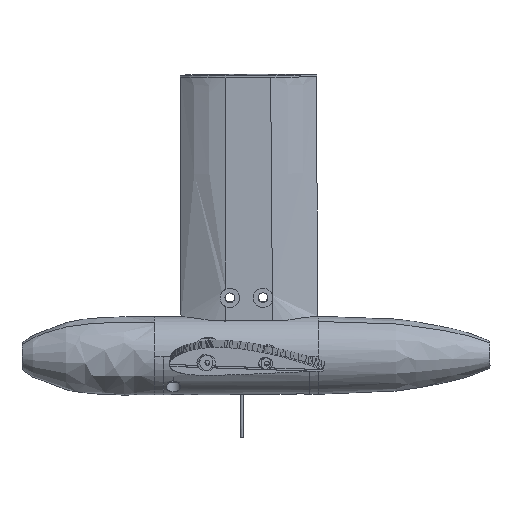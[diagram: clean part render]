
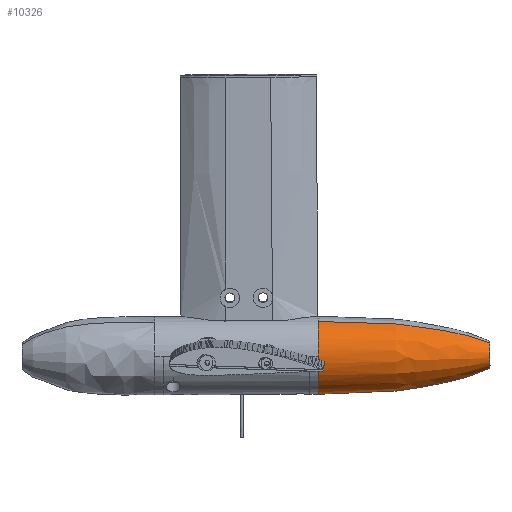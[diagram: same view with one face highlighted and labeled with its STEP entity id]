
A CAD part, front view. The second image highlights one B-rep face of the part: STEP entity #10326.
In plain terms, the highlighted face is a revolution surface.
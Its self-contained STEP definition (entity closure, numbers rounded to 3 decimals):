
#9456=CARTESIAN_POINT('Vertex',(-42.,20.,0.)) ;
#9459=CARTESIAN_POINT('Axis2P3D Location',(-42.,0.,0.)) ;
#9463=CARTESIAN_POINT('Vertex',(-42.,9.589,17.552)) ;
#10205=CARTESIAN_POINT('Vertex',(-42.,-9.589,-17.552)) ;
#10208=CARTESIAN_POINT('Axis2P3D Location',(-42.,0.,0.)) ;
#10227=CARTESIAN_POINT('Control Point',(-42.,0.,20.)) ;
#10228=CARTESIAN_POINT('Control Point',(-44.663,0.,20.038)) ;
#10229=CARTESIAN_POINT('Control Point',(-47.325,0.,20.058)) ;
#10230=CARTESIAN_POINT('Control Point',(-49.987,0.,20.058)) ;
#10231=CARTESIAN_POINT('Control Point',(-55.801,0.,20.018)) ;
#10232=CARTESIAN_POINT('Control Point',(-61.613,0.,19.875)) ;
#10233=CARTESIAN_POINT('Control Point',(-64.763,0.,19.763)) ;
#10234=CARTESIAN_POINT('Control Point',(-72.68,0.,19.368)) ;
#10235=CARTESIAN_POINT('Control Point',(-80.583,0.,18.662)) ;
#10236=CARTESIAN_POINT('Control Point',(-85.331,0.,18.109)) ;
#10237=CARTESIAN_POINT('Control Point',(-93.513,0.,16.961)) ;
#10238=CARTESIAN_POINT('Control Point',(-101.632,0.,15.474)) ;
#10239=CARTESIAN_POINT('Control Point',(-105.052,0.,14.785)) ;
#10240=CARTESIAN_POINT('Control Point',(-111.736,0.,13.305)) ;
#10241=CARTESIAN_POINT('Control Point',(-118.345,0.,11.476)) ;
#10242=CARTESIAN_POINT('Control Point',(-121.547,0.,10.475)) ;
#10243=CARTESIAN_POINT('Control Point',(-125.152,0.,9.163)) ;
#10244=CARTESIAN_POINT('Control Point',(-128.661,0.,7.64)) ;
#10245=CARTESIAN_POINT('Control Point',(-129.109,0.,7.441)) ;
#10246=CARTESIAN_POINT('Control Point',(-129.555,0.,7.239)) ;
#10247=CARTESIAN_POINT('Control Point',(-130.,0.,7.033)) ;
#10248=CARTESIAN_POINT('Axis1P Location',(-12.5,0.,0.)) ;
#10253=CARTESIAN_POINT('Control Point',(-130.,3.372,6.172)) ;
#10254=CARTESIAN_POINT('Control Point',(-130.,4.285,5.673)) ;
#10255=CARTESIAN_POINT('Control Point',(-130.,5.107,5.005)) ;
#10256=CARTESIAN_POINT('Control Point',(-130.,5.794,4.19)) ;
#10257=CARTESIAN_POINT('Control Point',(-130.,6.834,2.346)) ;
#10258=CARTESIAN_POINT('Control Point',(-130.,7.146,0.251)) ;
#10259=CARTESIAN_POINT('Control Point',(-130.,7.104,-0.814)) ;
#10260=CARTESIAN_POINT('Control Point',(-130.,6.628,-2.877)) ;
#10261=CARTESIAN_POINT('Control Point',(-130.,5.445,-4.634)) ;
#10262=CARTESIAN_POINT('Control Point',(-130.,4.696,-5.392)) ;
#10263=CARTESIAN_POINT('Control Point',(-130.,2.74,-6.742)) ;
#10264=CARTESIAN_POINT('Control Point',(-130.,0.387,-7.205)) ;
#10265=CARTESIAN_POINT('Control Point',(-130.,-0.955,-7.152)) ;
#10266=CARTESIAN_POINT('Control Point',(-130.,-2.235,-6.793)) ;
#10267=CARTESIAN_POINT('Control Point',(-130.,-3.372,-6.172)) ;
#10268=CARTESIAN_POINT('Vertex',(-130.,3.372,6.172)) ;
#10270=CARTESIAN_POINT('Vertex',(-130.,-3.372,-6.172)) ;
#10274=CARTESIAN_POINT('Control Point',(-42.,9.589,17.552)) ;
#10275=CARTESIAN_POINT('Control Point',(-44.663,9.607,17.585)) ;
#10276=CARTESIAN_POINT('Control Point',(-47.325,9.616,17.602)) ;
#10277=CARTESIAN_POINT('Control Point',(-49.987,9.616,17.603)) ;
#10278=CARTESIAN_POINT('Control Point',(-55.801,9.597,17.568)) ;
#10279=CARTESIAN_POINT('Control Point',(-61.613,9.529,17.442)) ;
#10280=CARTESIAN_POINT('Control Point',(-64.763,9.475,17.344)) ;
#10281=CARTESIAN_POINT('Control Point',(-72.68,9.285,16.997)) ;
#10282=CARTESIAN_POINT('Control Point',(-80.583,8.947,16.377)) ;
#10283=CARTESIAN_POINT('Control Point',(-85.331,8.682,15.892)) ;
#10284=CARTESIAN_POINT('Control Point',(-93.513,8.131,14.884)) ;
#10285=CARTESIAN_POINT('Control Point',(-101.632,7.419,13.58)) ;
#10286=CARTESIAN_POINT('Control Point',(-105.052,7.088,12.975)) ;
#10287=CARTESIAN_POINT('Control Point',(-111.736,6.379,11.677)) ;
#10288=CARTESIAN_POINT('Control Point',(-118.345,5.502,10.071)) ;
#10289=CARTESIAN_POINT('Control Point',(-121.547,5.022,9.193)) ;
#10290=CARTESIAN_POINT('Control Point',(-125.152,4.393,8.042)) ;
#10291=CARTESIAN_POINT('Control Point',(-128.661,3.663,6.705)) ;
#10292=CARTESIAN_POINT('Control Point',(-129.109,3.567,6.53)) ;
#10293=CARTESIAN_POINT('Control Point',(-129.555,3.47,6.353)) ;
#10294=CARTESIAN_POINT('Control Point',(-130.,3.372,6.172)) ;
#10297=CARTESIAN_POINT('Control Point',(-42.,-9.589,-17.552)) ;
#10298=CARTESIAN_POINT('Control Point',(-44.663,-9.607,-17.585)) ;
#10299=CARTESIAN_POINT('Control Point',(-47.325,-9.616,-17.602)) ;
#10300=CARTESIAN_POINT('Control Point',(-49.987,-9.616,-17.603)) ;
#10301=CARTESIAN_POINT('Control Point',(-55.801,-9.597,-17.568)) ;
#10302=CARTESIAN_POINT('Control Point',(-61.613,-9.529,-17.442)) ;
#10303=CARTESIAN_POINT('Control Point',(-64.763,-9.475,-17.344)) ;
#10304=CARTESIAN_POINT('Control Point',(-72.68,-9.285,-16.997)) ;
#10305=CARTESIAN_POINT('Control Point',(-80.583,-8.947,-16.377)) ;
#10306=CARTESIAN_POINT('Control Point',(-85.331,-8.682,-15.892)) ;
#10307=CARTESIAN_POINT('Control Point',(-93.513,-8.131,-14.884)) ;
#10308=CARTESIAN_POINT('Control Point',(-101.632,-7.419,-13.58)) ;
#10309=CARTESIAN_POINT('Control Point',(-105.052,-7.088,-12.975)) ;
#10310=CARTESIAN_POINT('Control Point',(-111.736,-6.379,-11.677)) ;
#10311=CARTESIAN_POINT('Control Point',(-118.345,-5.502,-10.071)) ;
#10312=CARTESIAN_POINT('Control Point',(-121.547,-5.022,-9.193)) ;
#10313=CARTESIAN_POINT('Control Point',(-125.152,-4.393,-8.042)) ;
#10314=CARTESIAN_POINT('Control Point',(-128.661,-3.663,-6.705)) ;
#10315=CARTESIAN_POINT('Control Point',(-129.109,-3.567,-6.53)) ;
#10316=CARTESIAN_POINT('Control Point',(-129.555,-3.47,-6.353)) ;
#10317=CARTESIAN_POINT('Control Point',(-130.,-3.372,-6.172)) ;
#9460=DIRECTION('Axis2P3D Direction',(1.,0.,0.)) ;
#10209=DIRECTION('Axis2P3D Direction',(1.,0.,0.)) ;
#10249=DIRECTION('Axis1P Direction',(-1.,0.,0.)) ;
#9461=AXIS2_PLACEMENT_3D('Circle Axis2P3D',#9459,#9460,$) ;
#10210=AXIS2_PLACEMENT_3D('Circle Axis2P3D',#10208,#10209,$) ;
#10320=ORIENTED_EDGE('',*,*,#10272,.F.) ;
#10321=ORIENTED_EDGE('',*,*,#10295,.F.) ;
#10322=ORIENTED_EDGE('',*,*,#9465,.F.) ;
#10323=ORIENTED_EDGE('',*,*,#10212,.F.) ;
#10324=ORIENTED_EDGE('',*,*,#10318,.T.) ;
#10326=ADVANCED_FACE('PartBody',(#10325),#10251,.T.) ;
#10250=AXIS1_PLACEMENT('Revolution Surface Axis1P',#10248,#10249) ;
#10226=B_SPLINE_CURVE_WITH_KNOTS('',5,(#10227,#10228,#10229,#10230,#10231,#10232,#10233,#10234,#10235,#10236,#10237,#10238,#10239,#10240,#10241,#10242,#10243,#10244,#10245,#10246,#10247),.UNSPECIFIED.,.F.,.U.,(6,3,3,3,3,3,6),(0.,13.31,29.072,52.929,70.381,87.096,89.551),.UNSPECIFIED.) ;
#10252=B_SPLINE_CURVE_WITH_KNOTS('',5,(#10253,#10254,#10255,#10256,#10257,#10258,#10259,#10260,#10261,#10262,#10263,#10264,#10265,#10266,#10267),.UNSPECIFIED.,.F.,.U.,(6,3,3,3,6),(0.,11.295,22.591,33.888,47.942),.UNSPECIFIED.) ;
#10273=B_SPLINE_CURVE_WITH_KNOTS('',5,(#10274,#10275,#10276,#10277,#10278,#10279,#10280,#10281,#10282,#10283,#10284,#10285,#10286,#10287,#10288,#10289,#10290,#10291,#10292,#10293,#10294),.UNSPECIFIED.,.F.,.U.,(6,3,3,3,3,3,6),(0.,13.31,29.072,52.929,70.381,87.096,89.551),.UNSPECIFIED.) ;
#10296=B_SPLINE_CURVE_WITH_KNOTS('',5,(#10297,#10298,#10299,#10300,#10301,#10302,#10303,#10304,#10305,#10306,#10307,#10308,#10309,#10310,#10311,#10312,#10313,#10314,#10315,#10316,#10317),.UNSPECIFIED.,.F.,.U.,(6,3,3,3,3,3,6),(0.,13.31,29.072,52.929,70.381,87.096,89.551),.UNSPECIFIED.) ;
#9462=CIRCLE('generated circle',#9461,20.) ;
#10211=CIRCLE('generated circle',#10210,20.) ;
#9465=EDGE_CURVE('',#9457,#9464,#9462,.T.) ;
#10212=EDGE_CURVE('',#10206,#9457,#10211,.T.) ;
#10272=EDGE_CURVE('',#10269,#10271,#10252,.T.) ;
#10295=EDGE_CURVE('',#9464,#10269,#10273,.T.) ;
#10318=EDGE_CURVE('',#10206,#10271,#10296,.T.) ;
#10319=EDGE_LOOP('',(#10320,#10321,#10322,#10323,#10324)) ;
#10325=FACE_OUTER_BOUND('',#10319,.T.) ;
#10251=SURFACE_OF_REVOLUTION('Surface of Revolution',#10226,#10250) ;
#9457=VERTEX_POINT('',#9456) ;
#9464=VERTEX_POINT('',#9463) ;
#10206=VERTEX_POINT('',#10205) ;
#10269=VERTEX_POINT('',#10268) ;
#10271=VERTEX_POINT('',#10270) ;
